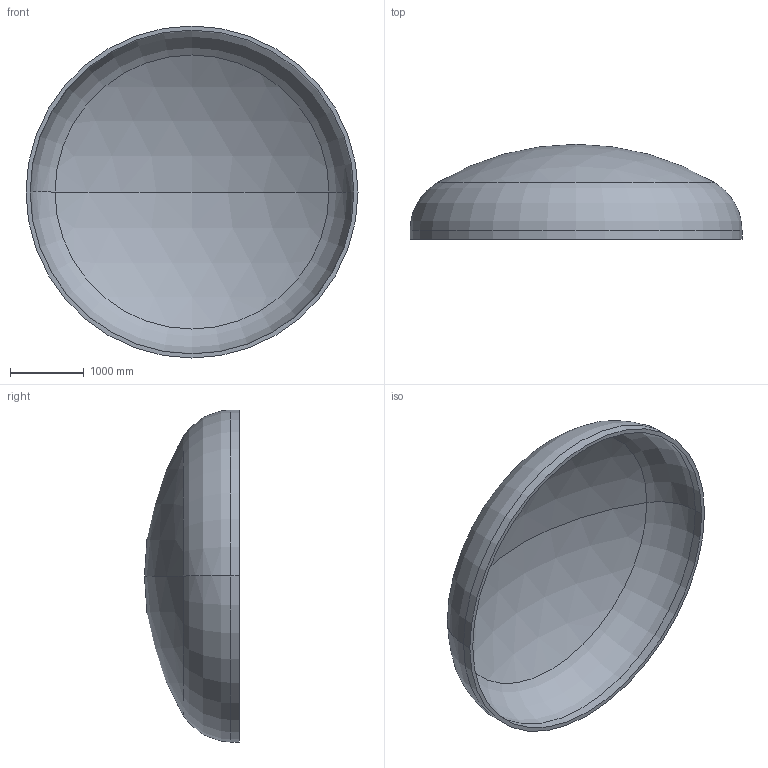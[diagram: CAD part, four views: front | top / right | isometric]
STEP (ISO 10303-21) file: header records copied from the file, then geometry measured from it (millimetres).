
FILE_DESCRIPTION (( 'STEP AP203' ), '1' );
FILE_NAME ('DIN 28013 Korbbogenform_-_Boden DIN 28013 - 4500 x 120 - I - s=56.step', '2016-07-01T23:34:14', ( '' ), ( '' ), 'SwSTEP 2.0', 'SolidWorks 2013', '' );
FILE_SCHEMA (( 'CONFIG_CONTROL_DESIGN' ));
Length unit declared in the file: millimetre
Products named in the file (1): DIN 28013 Korbbogenform_-_Boden DIN 28013 - 4500 x 120 - I - s=56
Bounding box: 4500 x 1287.62 x 4500 mm (x, y, z)
Volume: 1307906713.2 mm3; surface area: 47499334.2 mm2
Topology: 1 solids, 1 shells, 13 faces, 24 edges, 14 vertices
Faces by surface type: torus 4, cylinder 4, sphere 4, plane 1
Entity records: 407 total; most frequent: DIRECTION 72, CARTESIAN_POINT 52, ORIENTED_EDGE 48, AXIS2_PLACEMENT_3D 34, EDGE_CURVE 24, CIRCLE 20, VERTEX_POINT 14, EDGE_LOOP 14
